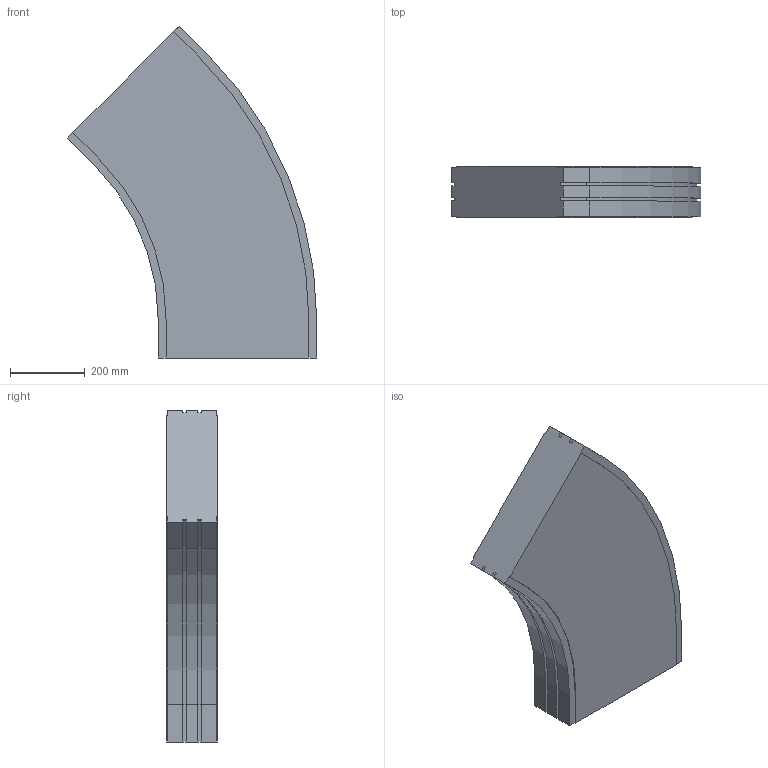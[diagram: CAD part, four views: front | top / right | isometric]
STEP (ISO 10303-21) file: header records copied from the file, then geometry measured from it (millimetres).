
FILE_DESCRIPTION (( 'STEP AP214' ), '1' );
FILE_NAME ('02.150H45.420.N FS-MTC-150 Bocht horizontaal 45°.STEP', '2013-03-29T11:16:25', ( 'Gebruiker' ), ( '' ), 'SwSTEP 2.0', 'SolidWorks 2012', '' );
FILE_SCHEMA (( 'AUTOMOTIVE_DESIGN' ));
Length unit declared in the file: millimetre
Products named in the file (1): 02.150H45.420.N FS-MTC-150 Bocht horizontaal 45°
Bounding box: 666.08 x 136 x 885.95 mm (x, y, z)
Volume: 47167770.4 mm3; surface area: 1112840.1 mm2
Topology: 1 solids, 1 shells, 58 faces, 168 edges, 112 vertices
Faces by surface type: plane 44, cylinder 14
Entity records: 1934 total; most frequent: CARTESIAN_POINT 339, ORIENTED_EDGE 336, DIRECTION 314, EDGE_CURVE 168, VECTOR 140, LINE 140, VERTEX_POINT 112, AXIS2_PLACEMENT_3D 87
